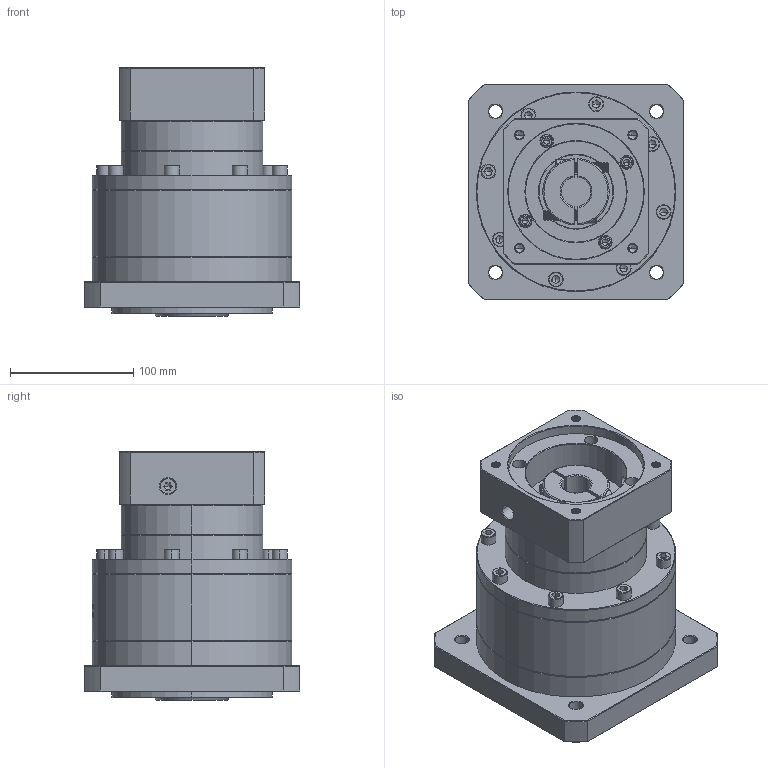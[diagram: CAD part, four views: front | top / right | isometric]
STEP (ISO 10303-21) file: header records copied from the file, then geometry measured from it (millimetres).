
FILE_DESCRIPTION (( 'STEP AP214' ), '1' );
FILE_NAME ('ZF160-K35-L2-24-110-130-M8.step', '2023-03-22T03:59:07', ( '' ), ( '' ), 'SwSTEP 2.0', 'SolidWorks 2016', '' );
FILE_SCHEMA (( 'AUTOMOTIVE_DESIGN' ));
Length unit declared in the file: millimetre
Products named in the file (1): ZF160-K35-L2-24-110-130-M8
Bounding box: 175 x 175 x 201.7 mm (x, y, z)
Volume: 3207802.9 mm3; surface area: 255015.5 mm2
Topology: 6 solids, 6 shells, 1798 faces, 4533 edges, 2860 vertices
Faces by surface type: plane 739, cylinder 447, cone 351, bspline 205, torus 56
Entity records: 92605 total; most frequent: CARTESIAN_POINT 31734, ORIENTED_EDGE 8962, DIRECTION 7931, EDGE_CURVE 4481, VERTEX_POINT 2860, AXIS2_PLACEMENT_3D 2747, VECTOR 2437, LINE 2437
